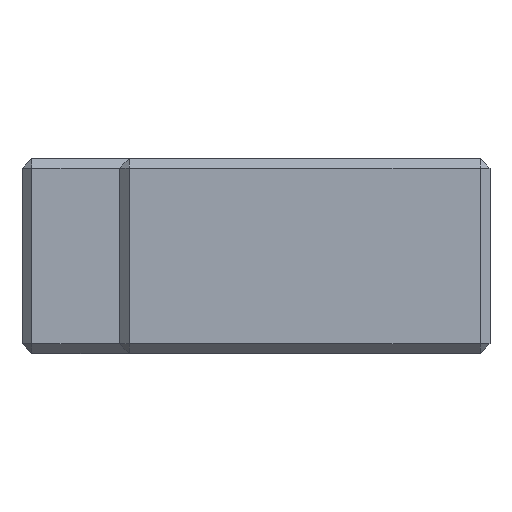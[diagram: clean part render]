
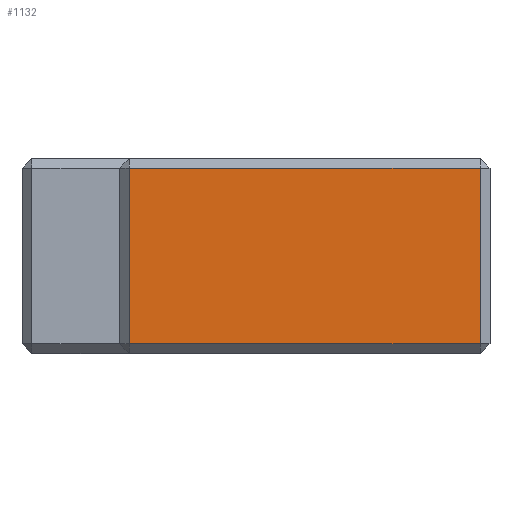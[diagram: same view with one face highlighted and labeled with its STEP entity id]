
A CAD part, left-side view. The second image highlights one B-rep face of the part: STEP entity #1132.
In plain terms, the highlighted planar face has unit normal (-1, 0, 0).
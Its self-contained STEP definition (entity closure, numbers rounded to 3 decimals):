
#158 = VERTEX_POINT ( 'NONE', #711 ) ;
#170 = EDGE_CURVE ( 'NONE', #3850, #158, #2630, .T. ) ;
#275 = EDGE_CURVE ( 'NONE', #2615, #3850, #2506, .T. ) ;
#580 = DIRECTION ( 'NONE',  ( 0., -1., 0. ) ) ;
#660 = CARTESIAN_POINT ( 'NONE',  ( -35., 38., -9. ) ) ;
#669 = VECTOR ( 'NONE', #944, 1000. ) ;
#711 = CARTESIAN_POINT ( 'NONE',  ( -35., 1., -9. ) ) ;
#738 = ORIENTED_EDGE ( 'NONE', *, *, #170, .T. ) ;
#753 = LINE ( 'NONE', #965, #669 ) ;
#797 = ORIENTED_EDGE ( 'NONE', *, *, #3258, .T. ) ;
#828 = ORIENTED_EDGE ( 'NONE', *, *, #275, .T. ) ;
#944 = DIRECTION ( 'NONE',  ( 0., 1., 0. ) ) ;
#965 = CARTESIAN_POINT ( 'NONE',  ( -35., 38., 9. ) ) ;
#1132 = ADVANCED_FACE ( 'NONE', ( #1358 ), #3261, .F. ) ;
#1358 = FACE_OUTER_BOUND ( 'NONE', #1995, .T. ) ;
#1995 = EDGE_LOOP ( 'NONE', ( #738, #3568, #797, #828 ) ) ;
#2345 = CARTESIAN_POINT ( 'NONE',  ( -35., 37., 9. ) ) ;
#2500 = VECTOR ( 'NONE', #4678, 1000. ) ;
#2506 = LINE ( 'NONE', #4825, #2500 ) ;
#2544 = CARTESIAN_POINT ( 'NONE',  ( -35., 1., 9. ) ) ;
#2615 = VERTEX_POINT ( 'NONE', #2345 ) ;
#2621 = AXIS2_PLACEMENT_3D ( 'NONE', #4874, #2922, #3266 ) ;
#2630 = LINE ( 'NONE', #660, #2651 ) ;
#2651 = VECTOR ( 'NONE', #580, 1000. ) ;
#2888 = VECTOR ( 'NONE', #4119, 1000. ) ;
#2922 = DIRECTION ( 'NONE',  ( 1., 0., 0. ) ) ;
#3258 = EDGE_CURVE ( 'NONE', #3825, #2615, #753, .T. ) ;
#3261 = PLANE ( 'NONE',  #2621 ) ;
#3266 = DIRECTION ( 'NONE',  ( 0., 1., 0. ) ) ;
#3407 = CARTESIAN_POINT ( 'NONE',  ( -35., 37., -9. ) ) ;
#3568 = ORIENTED_EDGE ( 'NONE', *, *, #4301, .T. ) ;
#3825 = VERTEX_POINT ( 'NONE', #2544 ) ;
#3850 = VERTEX_POINT ( 'NONE', #3407 ) ;
#4115 = CARTESIAN_POINT ( 'NONE',  ( -35., 1., 10. ) ) ;
#4119 = DIRECTION ( 'NONE',  ( 0., 0., 1. ) ) ;
#4301 = EDGE_CURVE ( 'NONE', #158, #3825, #4609, .T. ) ;
#4609 = LINE ( 'NONE', #4115, #2888 ) ;
#4678 = DIRECTION ( 'NONE',  ( 0., 0., -1. ) ) ;
#4825 = CARTESIAN_POINT ( 'NONE',  ( -35., 37., 10. ) ) ;
#4874 = CARTESIAN_POINT ( 'NONE',  ( -35., 38., 10. ) ) ;
